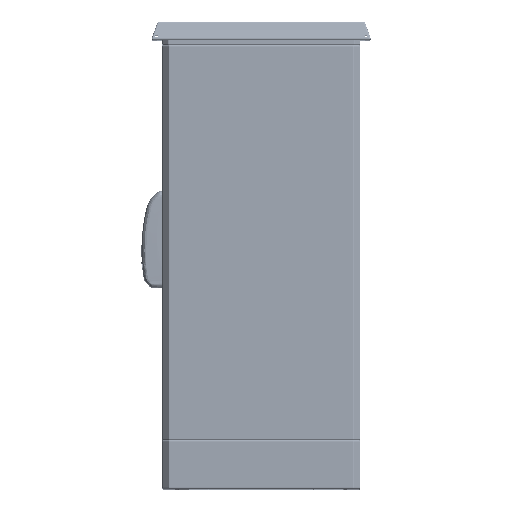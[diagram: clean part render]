
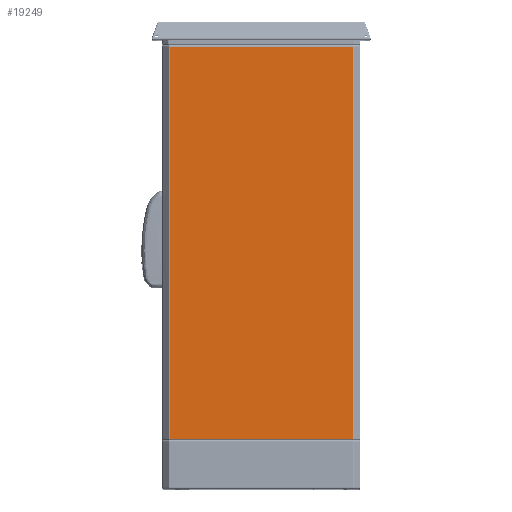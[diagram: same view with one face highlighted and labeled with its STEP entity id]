
A CAD part, top view. The second image highlights one B-rep face of the part: STEP entity #19249.
In plain terms, the highlighted planar face has unit normal (0, 0, 1).
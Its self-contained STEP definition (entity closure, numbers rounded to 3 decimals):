
#9495 = LINE ( 'NONE', #62709, #40879 ) ;
#17532 = FACE_OUTER_BOUND ( 'NONE', #130422, .T. ) ;
#19249 = ADVANCED_FACE ( 'NONE', ( #17532 ), #72567, .F. ) ;
#22133 = AXIS2_PLACEMENT_3D ( 'NONE', #31505, #75319, #74417 ) ;
#24436 = ORIENTED_EDGE ( 'NONE', *, *, #177452, .T. ) ;
#25035 = ORIENTED_EDGE ( 'NONE', *, *, #97975, .T. ) ;
#31505 = CARTESIAN_POINT ( 'NONE',  ( -188.76, 721., 28. ) ) ;
#38668 = LINE ( 'NONE', #67593, #134064 ) ;
#40879 = VECTOR ( 'NONE', #66386, 1000. ) ;
#46284 = DIRECTION ( 'NONE',  ( 1., 0., 0. ) ) ;
#48944 = VECTOR ( 'NONE', #177424, 1000. ) ;
#58947 = CARTESIAN_POINT ( 'NONE',  ( 187.517, -41., 28. ) ) ;
#61861 = CARTESIAN_POINT ( 'NONE',  ( -188.76, 762., 28. ) ) ;
#62709 = CARTESIAN_POINT ( 'NONE',  ( -187.517, 721., 28. ) ) ;
#66386 = DIRECTION ( 'NONE',  ( 0., -1., 0. ) ) ;
#67593 = CARTESIAN_POINT ( 'NONE',  ( 187.517, 721., 28. ) ) ;
#72567 = PLANE ( 'NONE',  #22133 ) ;
#74417 = DIRECTION ( 'NONE',  ( -1., 0., 0. ) ) ;
#75319 = DIRECTION ( 'NONE',  ( 0., 0., -1. ) ) ;
#85273 = DIRECTION ( 'NONE',  ( 0., 1., 0. ) ) ;
#97975 = EDGE_CURVE ( 'NONE', #135545, #128494, #9495, .T. ) ;
#103195 = CARTESIAN_POINT ( 'NONE',  ( -188.76, -41., 28. ) ) ;
#117742 = EDGE_CURVE ( 'NONE', #119426, #182199, #38668, .T. ) ;
#119426 = VERTEX_POINT ( 'NONE', #58947 ) ;
#124845 = CARTESIAN_POINT ( 'NONE',  ( -187.517, 762., 28. ) ) ;
#128494 = VERTEX_POINT ( 'NONE', #134085 ) ;
#130422 = EDGE_LOOP ( 'NONE', ( #177860, #25035, #24436, #135080 ) ) ;
#134064 = VECTOR ( 'NONE', #85273, 1000. ) ;
#134085 = CARTESIAN_POINT ( 'NONE',  ( -187.517, -41., 28. ) ) ;
#135080 = ORIENTED_EDGE ( 'NONE', *, *, #117742, .T. ) ;
#135545 = VERTEX_POINT ( 'NONE', #124845 ) ;
#140020 = EDGE_CURVE ( 'NONE', #182199, #135545, #165287, .T. ) ;
#147922 = LINE ( 'NONE', #103195, #171451 ) ;
#158903 = CARTESIAN_POINT ( 'NONE',  ( 187.517, 762., 28. ) ) ;
#165287 = LINE ( 'NONE', #61861, #48944 ) ;
#171451 = VECTOR ( 'NONE', #46284, 1000. ) ;
#177424 = DIRECTION ( 'NONE',  ( -1., 0., 0. ) ) ;
#177452 = EDGE_CURVE ( 'NONE', #128494, #119426, #147922, .T. ) ;
#177860 = ORIENTED_EDGE ( 'NONE', *, *, #140020, .T. ) ;
#182199 = VERTEX_POINT ( 'NONE', #158903 ) ;
